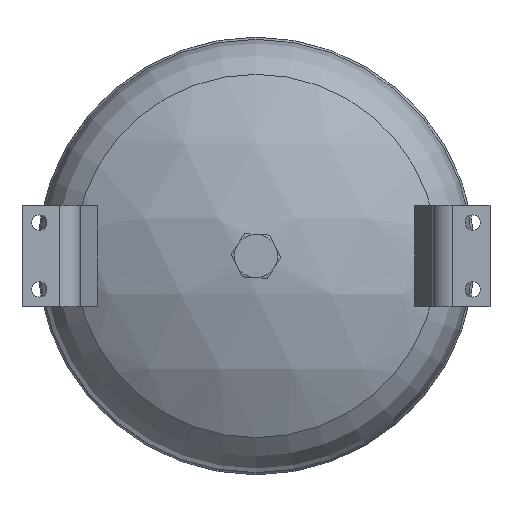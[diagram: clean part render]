
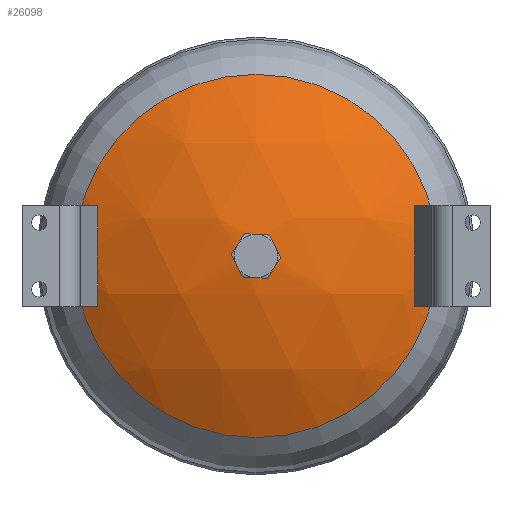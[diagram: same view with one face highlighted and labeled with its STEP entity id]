
A CAD part, front view. The second image highlights one B-rep face of the part: STEP entity #26098.
In plain terms, the highlighted spherical face has radius 244 mm.
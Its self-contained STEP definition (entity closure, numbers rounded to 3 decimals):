
#15=SPHERICAL_SURFACE('',#27940,244.);
#6840=FACE_BOUND('',#9884,.T.);
#6841=FACE_BOUND('',#9885,.T.);
#6842=FACE_BOUND('',#9886,.T.);
#8289=FACE_OUTER_BOUND('',#9883,.T.);
#9883=EDGE_LOOP('',(#24604));
#9884=EDGE_LOOP('',(#24605));
#9885=EDGE_LOOP('',(#24606,#24607,#24608,#24609));
#9886=EDGE_LOOP('',(#24610,#24611,#24612,#24613));
#9918=CIRCLE('',#26117,13.218);
#10394=CIRCLE('',#27866,29.537);
#10395=CIRCLE('',#27868,29.537);
#10396=CIRCLE('',#27870,243.161);
#10403=CIRCLE('',#27881,242.363);
#10410=CIRCLE('',#27899,29.537);
#10411=CIRCLE('',#27901,29.537);
#10412=CIRCLE('',#27903,243.161);
#10419=CIRCLE('',#27914,242.363);
#10429=CIRCLE('',#27939,125.773);
#10440=VERTEX_POINT('',#33551);
#12953=VERTEX_POINT('',#56966);
#12954=VERTEX_POINT('',#56967);
#12957=VERTEX_POINT('',#56975);
#12958=VERTEX_POINT('',#56976);
#12985=VERTEX_POINT('',#57061);
#12986=VERTEX_POINT('',#57062);
#12989=VERTEX_POINT('',#57070);
#12990=VERTEX_POINT('',#57071);
#13020=VERTEX_POINT('',#57166);
#13032=EDGE_CURVE('',#10440,#10440,#9918,.T.);
#16802=EDGE_CURVE('',#12953,#12954,#10394,.T.);
#16806=EDGE_CURVE('',#12957,#12958,#10395,.T.);
#16810=EDGE_CURVE('',#12954,#12957,#10396,.T.);
#16821=EDGE_CURVE('',#12958,#12953,#10403,.T.);
#16848=EDGE_CURVE('',#12985,#12986,#10410,.T.);
#16852=EDGE_CURVE('',#12989,#12990,#10411,.T.);
#16856=EDGE_CURVE('',#12986,#12989,#10412,.T.);
#16867=EDGE_CURVE('',#12990,#12985,#10419,.T.);
#16897=EDGE_CURVE('',#13020,#13020,#10429,.T.);
#24604=ORIENTED_EDGE('',*,*,#16897,.T.);
#24605=ORIENTED_EDGE('',*,*,#13032,.T.);
#24606=ORIENTED_EDGE('',*,*,#16810,.T.);
#24607=ORIENTED_EDGE('',*,*,#16806,.T.);
#24608=ORIENTED_EDGE('',*,*,#16821,.T.);
#24609=ORIENTED_EDGE('',*,*,#16802,.T.);
#24610=ORIENTED_EDGE('',*,*,#16856,.T.);
#24611=ORIENTED_EDGE('',*,*,#16852,.T.);
#24612=ORIENTED_EDGE('',*,*,#16867,.T.);
#24613=ORIENTED_EDGE('',*,*,#16848,.T.);
#26098=ADVANCED_FACE('',(#8289,#6840,#6841,#6842),#15,.T.);
#26117=AXIS2_PLACEMENT_3D('',#33552,#27970,#27971);
#27866=AXIS2_PLACEMENT_3D('',#56968,#33289,#33290);
#27868=AXIS2_PLACEMENT_3D('',#56977,#33296,#33297);
#27870=AXIS2_PLACEMENT_3D('',#56984,#33303,#33304);
#27881=AXIS2_PLACEMENT_3D('',#57007,#33329,#33330);
#27899=AXIS2_PLACEMENT_3D('',#57063,#33385,#33386);
#27901=AXIS2_PLACEMENT_3D('',#57072,#33392,#33393);
#27903=AXIS2_PLACEMENT_3D('',#57079,#33399,#33400);
#27914=AXIS2_PLACEMENT_3D('',#57102,#33425,#33426);
#27939=AXIS2_PLACEMENT_3D('',#57167,#33495,#33496);
#27940=AXIS2_PLACEMENT_3D('',#57168,#33497,#33498);
#27970=DIRECTION('center_axis',(0.,1.,0.));
#27971=DIRECTION('ref_axis',(0.,0.,1.));
#33289=DIRECTION('center_axis',(0.375,0.927,0.));
#33290=DIRECTION('ref_axis',(0.,0.,-1.));
#33296=DIRECTION('center_axis',(0.375,0.927,0.));
#33297=DIRECTION('ref_axis',(0.,0.,-1.));
#33303=DIRECTION('center_axis',(0.927,-0.375,0.));
#33304=DIRECTION('ref_axis',(0.,0.,1.));
#33329=DIRECTION('center_axis',(-0.927,0.375,0.));
#33330=DIRECTION('ref_axis',(0.,0.,-1.));
#33385=DIRECTION('center_axis',(-0.375,0.927,0.));
#33386=DIRECTION('ref_axis',(0.,0.,-1.));
#33392=DIRECTION('center_axis',(-0.375,0.927,0.));
#33393=DIRECTION('ref_axis',(0.,0.,-1.));
#33399=DIRECTION('center_axis',(-0.927,-0.375,0.));
#33400=DIRECTION('ref_axis',(0.,0.,-1.));
#33425=DIRECTION('center_axis',(0.927,0.375,0.));
#33426=DIRECTION('ref_axis',(0.,0.,1.));
#33495=DIRECTION('center_axis',(0.,-1.,0.));
#33496=DIRECTION('ref_axis',(-1.,0.,0.));
#33497=DIRECTION('center_axis',(0.,0.,-1.));
#33498=DIRECTION('ref_axis',(1.,0.,0.));
#33551=CARTESIAN_POINT('',(-13.218,-160.542,0.));
#33552=CARTESIAN_POINT('Origin',(0.,-160.542,0.));
#56966=CARTESIAN_POINT('',(-116.891,-130.9,8.741));
#56967=CARTESIAN_POINT('',(-109.474,-133.897,21.537));
#56968=CARTESIAN_POINT('Origin',(-90.732,-141.469,0.));
#56975=CARTESIAN_POINT('',(-109.474,-133.897,-21.537));
#56976=CARTESIAN_POINT('',(-116.891,-130.9,-8.741));
#56977=CARTESIAN_POINT('Origin',(-90.732,-141.469,0.));
#56984=CARTESIAN_POINT('Origin',(-18.742,90.672,0.));
#57007=CARTESIAN_POINT('Origin',(-26.16,93.669,0.));
#57061=CARTESIAN_POINT('',(116.891,-130.9,-8.741));
#57062=CARTESIAN_POINT('',(109.474,-133.897,-21.537));
#57063=CARTESIAN_POINT('Origin',(90.732,-141.469,0.));
#57070=CARTESIAN_POINT('',(109.474,-133.897,21.537));
#57071=CARTESIAN_POINT('',(116.891,-130.9,8.741));
#57072=CARTESIAN_POINT('Origin',(90.732,-141.469,0.));
#57079=CARTESIAN_POINT('Origin',(18.742,90.672,0.));
#57102=CARTESIAN_POINT('Origin',(26.16,93.669,0.));
#57166=CARTESIAN_POINT('',(-125.773,-125.986,0.));
#57167=CARTESIAN_POINT('Origin',(0.,-125.986,
0.));
#57168=CARTESIAN_POINT('Origin',(0.,83.1,
0.));
